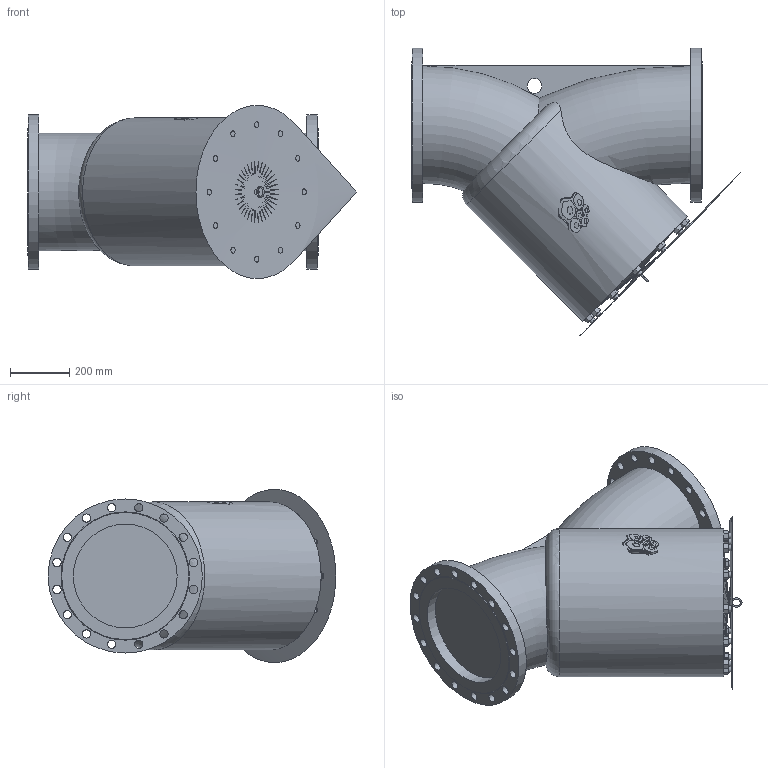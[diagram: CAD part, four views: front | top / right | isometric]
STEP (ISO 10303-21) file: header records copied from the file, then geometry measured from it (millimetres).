
FILE_DESCRIPTION(('STEP AP203'), '1');
FILE_NAME('3D_600_601-350-16_1,6_3', '', ('UNSPECIFIED'), ('UNSPECIFIED'), 'C3D Converter', 'C3D Toolkit', '');
FILE_SCHEMA(('CONFIG_CONTROL_DESIGN'));
Length unit declared in the file: millimetre
Assembly tree (13 placements, depth 3):
  (unnamed)
    (unnamed)
      (unnamed)  x8
      (unnamed)
      (unnamed)
      (unnamed)
      (unnamed)
Bounding box: 1109.24 x 970.53 x 583.92 mm (x, y, z)
Volume: 122096821.7 mm3; surface area: 3531615.5 mm2
Topology: 27 solids, 27 shells, 1082 faces, 3080 edges, 2071 vertices
Faces by surface type: plane 957, cylinder 69, cone 50, torus 6
Full cylindrical faces by diameter (mm): 15 x12, 20 x12, 28 x32, 30 x1, 50 x1, 350 x2, 500 x1, 520 x2
Entity records: 43320 total; most frequent: CARTESIAN_POINT 11752, ORIENTED_EDGE 5464, DIRECTION 4004, EDGE_CURVE 2732, VERTEX_POINT 1880, LINE 1678, VECTOR 1678, AXIS2_PLACEMENT_3D 1163
